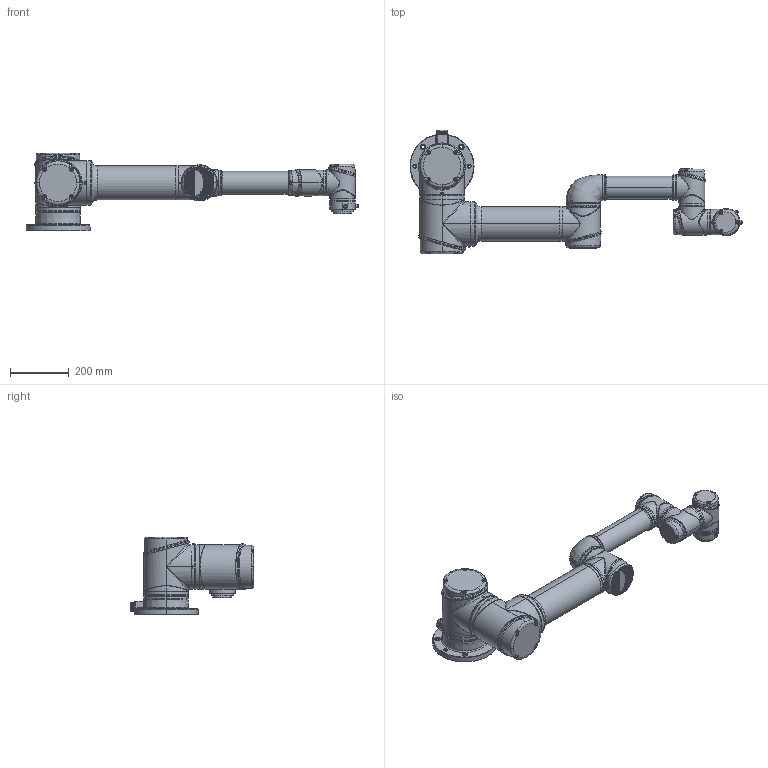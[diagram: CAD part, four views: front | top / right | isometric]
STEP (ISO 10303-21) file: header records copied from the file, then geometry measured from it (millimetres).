
FILE_DESCRIPTION (( 'STEP AP214' ), '1' );
FILE_NAME ('AUBO-i16H-DRW_P_Point_Range_zh_A0.STEP', '2025-11-10T08:20:42', ( '' ), ( '' ), 'SwSTEP 2.0', 'SolidWorks 2024', '' );
FILE_SCHEMA (( 'AUTOMOTIVE_DESIGN' ));
Length unit declared in the file: millimetre
Products named in the file (8): i16-大臂-FW; i16-底座-FW; iS10-末端简化-FW; i16-ID1-FW; i16-ID6-FW; i16-小臂-FW; i16-ID5-FW; AUBO-i16H-DRW_P_Point_Range_zh_A0
Assembly tree (7 placements, depth 2):
  AUBO-i16H-DRW_P_Point_Range_zh_A0
    i16-底座-FW
    i16-ID1-FW
    i16-大臂-FW
    i16-小臂-FW
    i16-ID5-FW
    i16-ID6-FW
    iS10-末端简化-FW
Bounding box: 1129.48 x 419.8 x 264 mm (x, y, z)
Volume: 19954825.2 mm3; surface area: 1064232.1 mm2
Topology: 11 solids, 26 shells, 2730 faces, 6603 edges, 4051 vertices
Faces by surface type: plane 1019, cylinder 708, bspline 560, cone 329, torus 102, sphere 12
Entity records: 183441 total; most frequent: CARTESIAN_POINT 96989, ORIENTED_EDGE 13104, DIRECTION 11599, EDGE_CURVE 6552, AXIS2_PLACEMENT_3D 4459, VERTEX_POINT 4050, EDGE_LOOP 2940, ADVANCED_FACE 2730
